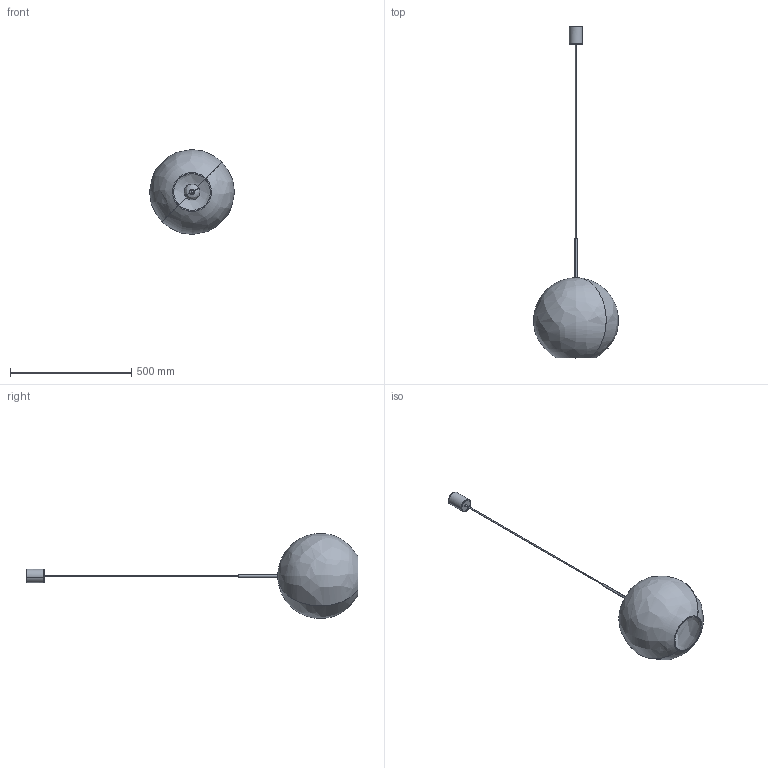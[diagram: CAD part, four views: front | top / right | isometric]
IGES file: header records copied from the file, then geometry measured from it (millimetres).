
Start section: SolidWorks IGES file using NURBS representation for surfaces
Global section: file name: Z:\Modele 3D_WWW\_KOLEKCJE_WWW\SPHERE\SPHERE-XL-7846\SPHERE-XL-7846.IGS; native system: SolidWorks 2021; preprocessor: SolidWorks 2021; author: gabriela.tworek; date: 210908.102855; units: millimetre
Bounding box: 349.88 x 1368.19 x 349.61 mm (x, y, z)
Surface area: 849485.6 mm2 (no closed solid volume)
Topology: 0 solids, 0 shells, 430 faces, 5680 edges, 5671 vertices
Faces by surface type: bspline 430
